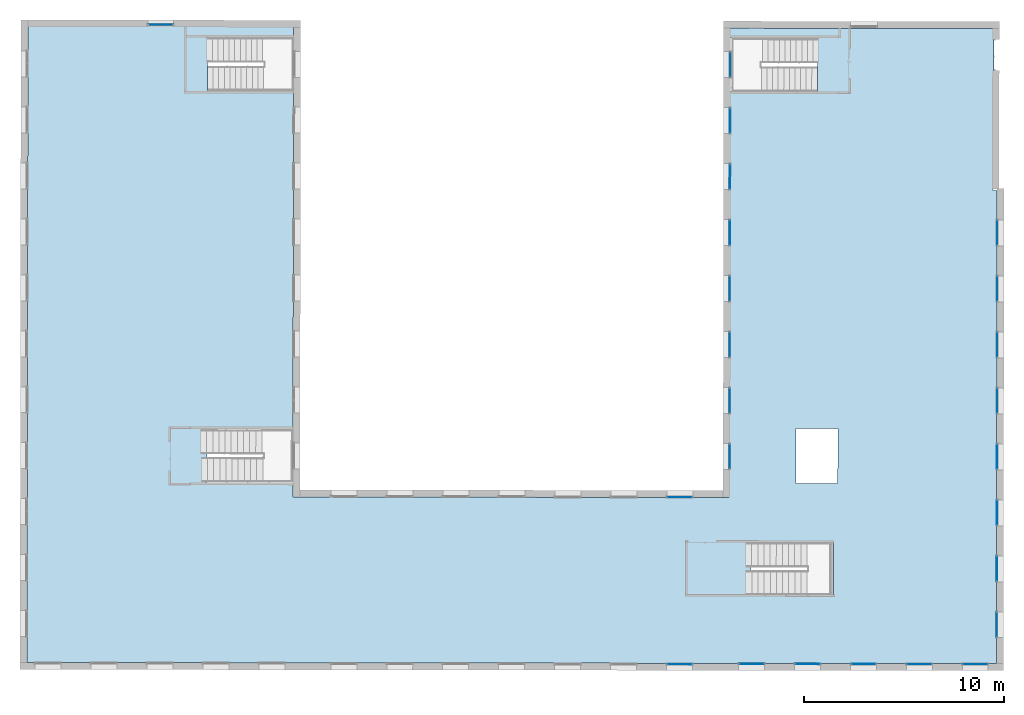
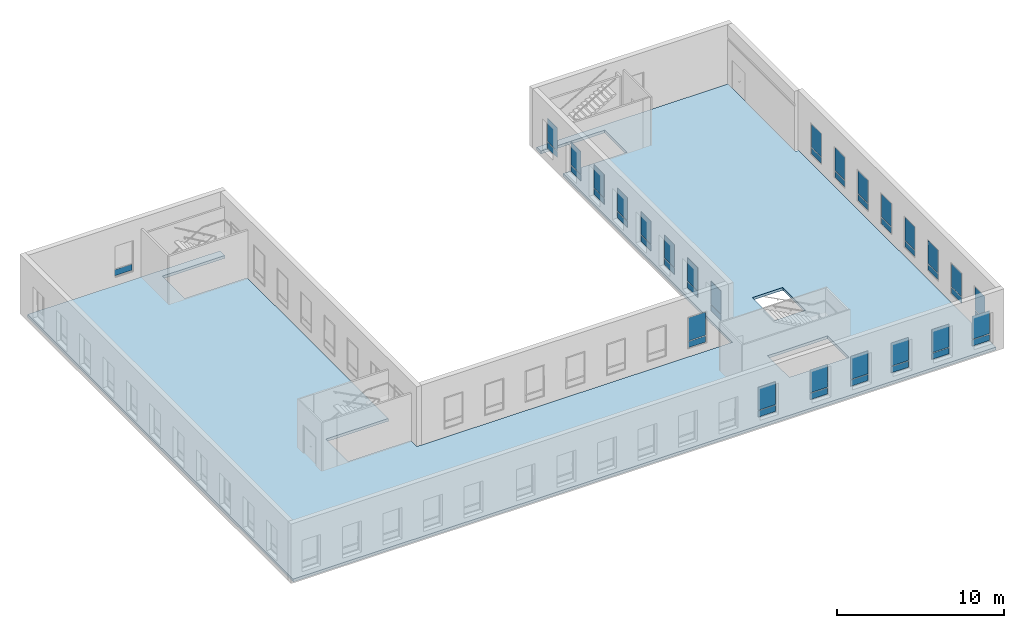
# One storey, part 28 of 35: 47 plates, 1 slab, 2 openings, 24 elements without a shape of their own.
"""IFC2X3 building model written with IfcOpenShell, lengths in metres."""

import ifcopenshell
import ifcopenshell.guid

model = None  # the IFC model being written
_history = None  # IfcOwnerHistory: only IFC2X3 demands one
_inside = {}  # id of a spatial element -> (the spatial element, [elements in it])
_under = {}  # id of a project, library or spatial element -> (it, [spatial elements below it])
_declared = {}  # id of a project -> (the project, [libraries it declares])
_typed = {}  # id of a type object -> (the type object, [elements of that type])
_made_of = {}  # id of a material, layer set ... -> (it, [elements and type objects made of it])


def new_model(schema):
    """Start an empty IFC model of exactly this schema.

    Asked for "IFC4X3", IfcOpenShell would pick the latest addendum, in which some entities
    have other attributes; the version numbers below select the first issue.
    IFC2X3 requires an IfcOwnerHistory on every rooted entity: one is made here for all.
    """
    global model, _history
    if schema == "IFC4X3":
        model = ifcopenshell.file(schema_version=(4, 3, 0, 0))
    else:
        model = ifcopenshell.file(schema=schema)
    _inside.clear()
    _under.clear()
    _declared.clear()
    _typed.clear()
    _made_of.clear()
    _history = None
    if model.schema == "IFC2X3":
        org = make("IfcOrganization", Name="unknown")
        user = make(
            "IfcPersonAndOrganization",
            ThePerson=make("IfcPerson", FamilyName="unknown"),
            TheOrganization=org,
        )
        app = make(
            "IfcApplication",
            ApplicationDeveloper=org,
            Version="unknown",
            ApplicationFullName="unknown",
            ApplicationIdentifier="unknown",
        )
        _history = make(
            "IfcOwnerHistory",
            OwningUser=user,
            OwningApplication=app,
            ChangeAction="ADDED",
            CreationDate=0,
        )
    return model


def make(cls, **values):
    """One entity of the class cls with the attributes given. An attribute that is None is left unset."""
    return model.create_entity(
        cls, **{name: value for name, value in values.items() if value is not None}
    )


def entity(cls, *values):
    """Any entity or typed value of the class cls, its attributes in the order of the schema. None: left unset."""
    e = model.create_entity(cls)
    for i, value in enumerate(values):
        if value is not None:
            e[i] = value
    return e


def rooted(cls, **values):
    """An entity with a GlobalId (a new one), such as an element, a storey or a relation."""
    return make(cls, GlobalId=ifcopenshell.guid.new(), OwnerHistory=_history, **values)


def si_unit(unit_type, name, prefix=None):
    """IfcSIUnit, for example si_unit("LENGTHUNIT", "METRE", prefix="MILLI")."""
    return make("IfcSIUnit", UnitType=unit_type, Prefix=prefix, Name=name)


def converted_unit(unit_type, name, factor, base, dimensions=None, offset=None):
    """IfcConversionBasedUnit, such as the inch: factor (a typed value) times the base unit."""
    return make(
        "IfcConversionBasedUnit"
        if offset is None
        else "IfcConversionBasedUnitWithOffset",
        ConversionOffset=offset,
        Dimensions=None
        if dimensions is None
        else entity("IfcDimensionalExponents", *dimensions),
        UnitType=unit_type,
        Name=name,
        ConversionFactor=make(
            "IfcMeasureWithUnit", ValueComponent=factor, UnitComponent=base
        ),
    )


def derived_unit(unit_type, elements):
    """IfcDerivedUnit: a product of units, each with its exponent."""
    return make(
        "IfcDerivedUnit",
        Elements=[
            make("IfcDerivedUnitElement", Unit=unit, Exponent=power)
            for unit, power in elements
        ],
        UnitType=unit_type,
    )


def assignment(units):
    """IfcUnitAssignment: the units of a project."""
    return None if units is None else make("IfcUnitAssignment", Units=units)


def point(xyz):
    """IfcCartesianPoint."""
    return None if xyz is None else make("IfcCartesianPoint", Coordinates=xyz)


def direction(xyz):
    """IfcDirection."""
    return None if xyz is None else make("IfcDirection", DirectionRatios=xyz)


def frame(location, z_axis=None, x_axis=None):
    """IfcAxis2Placement3D, a coordinate frame: its origin and axes. An axis left out is left unset."""
    return make(
        "IfcAxis2Placement3D",
        Location=point(location),
        Axis=direction(z_axis),
        RefDirection=direction(x_axis),
    )


def frame_2d(location, x_axis=None):
    """IfcAxis2Placement2D, a coordinate frame in the plane: its origin and x axis."""
    return make(
        "IfcAxis2Placement2D", Location=point(location), RefDirection=direction(x_axis)
    )


def origin():
    """The frame at (0, 0, 0) with its axes left unset."""
    return frame((0.0, 0.0, 0.0))


def place(relative_to, where):
    """IfcLocalPlacement: puts the frame where relative to a parent placement (None: the world)."""
    return make(
        "IfcLocalPlacement", PlacementRelTo=relative_to, RelativePlacement=where
    )


def context(
    kind, dimensions, precision=None, world=None, true_north=None, identifier=None
):
    """IfcGeometricRepresentationContext, for example the 3D "Model" context."""
    return make(
        "IfcGeometricRepresentationContext",
        ContextIdentifier=identifier,
        ContextType=kind,
        CoordinateSpaceDimension=dimensions,
        Precision=precision,
        WorldCoordinateSystem=world,
        TrueNorth=true_north,
    )


def subcontext(parent, identifier, kind, view, scale=None):
    """IfcGeometricRepresentationSubContext, for example "Body" below "Model"."""
    return make(
        "IfcGeometricRepresentationSubContext",
        ContextIdentifier=identifier,
        ContextType=kind,
        ParentContext=parent,
        TargetScale=scale,
        TargetView=view,
    )


def project(units=None, contexts=None):
    """IfcProject with its units and contexts."""
    return rooted(
        "IfcProject",
        Name="project",
        RepresentationContexts=contexts,
        UnitsInContext=assignment(units),
    )


def spatial(cls, under=None, at=None, **own):
    """A site, building, storey or space (cls), placed at a placement, below another one or the project."""
    s = rooted(cls, ObjectPlacement=at, **own)
    if under is not None:
        _under.setdefault(under.id(), (under, []))[1].append(s)
    return s


def polyline(points):
    """IfcPolyline through the points."""
    return make("IfcPolyline", Points=[point(p) for p in points])


def profile(cls, at=None, kind="AREA", **sizes):
    """A parametric profile (cls). Its sizes go by their IFC names, for example OverallWidth=200.0."""
    return make(cls, ProfileType=kind, Position=at, **sizes)


def rectangle(**sizes):
    """IfcRectangleProfileDef."""
    return profile("IfcRectangleProfileDef", **sizes)


def outline(outer, holes=None, kind="AREA"):
    """IfcArbitraryClosedProfileDef: a profile drawn as a closed curve; with holes, ...WithVoids."""
    if holes is None:
        return make("IfcArbitraryClosedProfileDef", ProfileType=kind, OuterCurve=outer)
    return make(
        "IfcArbitraryProfileDefWithVoids",
        ProfileType=kind,
        OuterCurve=outer,
        InnerCurves=holes,
    )


def extrude(swept, where, along, depth):
    """IfcExtrudedAreaSolid: the profile swept, set in the frame where, extruded along a direction by depth."""
    return make(
        "IfcExtrudedAreaSolid",
        SweptArea=swept,
        Position=where,
        ExtrudedDirection=direction(along),
        Depth=depth,
    )


def boolean(op, a, b):
    """IfcBooleanResult of two solids."""
    return make("IfcBooleanResult", Operator=op, FirstOperand=a, SecondOperand=b)


def shape(context_of_items, identifier, shape_type, items):
    """IfcShapeRepresentation: the items that make up one representation, for example the "Body"."""
    return make(
        "IfcShapeRepresentation",
        ContextOfItems=context_of_items,
        RepresentationIdentifier=identifier,
        RepresentationType=shape_type,
        Items=items,
    )


def source(mapping_origin, context_of_items, identifier, shape_type, items):
    """IfcRepresentationMap: a shape defined once, which mapped items show again and again."""
    return make(
        "IfcRepresentationMap",
        MappingOrigin=mapping_origin,
        MappedRepresentation=shape(context_of_items, identifier, shape_type, items),
    )


def transform(
    local_origin,
    x_axis=None,
    y_axis=None,
    z_axis=None,
    scale=None,
    scale2=None,
    scale3=None,
    uniform=True,
):
    """IfcCartesianTransformationOperator3D, or its non-uniform kind. x_axis, y_axis, z_axis: its Axis1, 2, 3."""
    if uniform:
        return make(
            "IfcCartesianTransformationOperator3D",
            Axis1=direction(x_axis),
            Axis2=direction(y_axis),
            LocalOrigin=point(local_origin),
            Scale=scale,
            Axis3=direction(z_axis),
        )
    return make(
        "IfcCartesianTransformationOperator3DnonUniform",
        Axis1=direction(x_axis),
        Axis2=direction(y_axis),
        LocalOrigin=point(local_origin),
        Scale=scale,
        Axis3=direction(z_axis),
        Scale2=scale2,
        Scale3=scale3,
    )


def mapped(mapping_source, mapping_target):
    """IfcMappedItem: shows the shape of a source again, moved by a transform."""
    return make(
        "IfcMappedItem", MappingSource=mapping_source, MappingTarget=mapping_target
    )


def material(Name=None, Category=None):
    """IfcMaterial."""
    return make("IfcMaterial", Name=Name, Category=Category)


def layer(
    of_material, thickness, ventilated=None, Name=None, Category=None, Priority=None
):
    """IfcMaterialLayer: one layer of a wall or slab, of a material (None: an air gap)."""
    return make(
        "IfcMaterialLayer",
        Material=of_material,
        LayerThickness=thickness,
        IsVentilated=ventilated,
        Name=Name,
        Category=Category,
        Priority=Priority,
    )


def layer_set(layers, Name=None):
    """IfcMaterialLayerSet."""
    return make("IfcMaterialLayerSet", MaterialLayers=layers, LayerSetName=Name)


def layer_usage(for_layer_set, set_direction, sense, offset, extent=None):
    """IfcMaterialLayerSetUsage: how a layer set lies in its element."""
    return make(
        "IfcMaterialLayerSetUsage",
        ForLayerSet=for_layer_set,
        LayerSetDirection=set_direction,
        DirectionSense=sense,
        OffsetFromReferenceLine=offset,
        ReferenceExtent=extent,
    )


def made_of(thing, what):
    """Note that an element or type object is made of a material, layer set ...; save() writes the relation."""
    if what is not None:
        _made_of.setdefault(what.id(), (what, []))[1].append(thing)
    return thing


def type_object(cls, material=None, **own):
    """A type object (cls), such as IfcWallType, which elements share."""
    return made_of(rooted(cls, **own), material)


def type_shapes(of_type, sources):
    """Give a type object the sources (RepresentationMaps) that its elements show as mapped items."""
    of_type.RepresentationMaps = sources


def element(
    cls,
    number,
    at=None,
    inside=None,
    cuts=None,
    type_object=None,
    material=None,
    context=None,
    identifier="Body",
    shape_type=None,
    held_by="IfcProductDefinitionShape",
    body=None,
    shapes=None,
    **own,
):
    """One element of the class cls, such as IfcWall. Its Tag is "e" and its number.

    at: its placement. inside: the storey or other place that contains it. cuts: it is an
    opening in that element (IfcRelVoidsElement). A single representation is given by context,
    identifier, shape_type and body (its items); several are given by shapes. held_by: the class
    of the entity that holds the representations. save() writes the other relations.
    """
    e = rooted(cls, Tag="e%d" % number, ObjectPlacement=at, **own)
    if body is not None:
        shapes = [shape(context, identifier, shape_type, body)]
    if shapes is not None:
        e.Representation = make(held_by, Representations=shapes)
    if inside is not None:
        _inside.setdefault(inside.id(), (inside, []))[1].append(e)
    if cuts is not None:
        rooted(
            "IfcRelVoidsElement", RelatingBuildingElement=cuts, RelatedOpeningElement=e
        )
    if type_object is not None:
        _typed.setdefault(type_object.id(), (type_object, []))[1].append(e)
    return made_of(e, material)


def aggregate(whole, parts):
    """IfcRelAggregates: a whole, such as a stair, and the parts it consists of."""
    return rooted("IfcRelAggregates", RelatingObject=whole, RelatedObjects=parts)


def save(model, path):
    """Write the relations noted so far, then the file.

    IfcRelAggregates (storeys below a building ...), IfcRelContainedInSpatialStructure (elements
    in a storey), IfcRelDefinesByType, IfcRelAssociatesMaterial and IfcRelDeclares: one each for
    every whole, place, type object, material and project.
    """
    for whole, parts in _under.values():
        aggregate(whole, parts)
    for where, things in _inside.values():
        rooted(
            "IfcRelContainedInSpatialStructure",
            RelatedElements=things,
            RelatingStructure=where,
        )
    for kind, things in _typed.values():
        rooted("IfcRelDefinesByType", RelatedObjects=things, RelatingType=kind)
    for what, things in _made_of.values():
        rooted("IfcRelAssociatesMaterial", RelatedObjects=things, RelatingMaterial=what)
    for by, libraries in _declared.values():
        rooted("IfcRelDeclares", RelatingContext=by, RelatedDefinitions=libraries)
    model.write(path)


model = new_model("IFC2X3")

# Units and contexts
model_context = context("Model", 3, precision=1e-05, world=origin(), true_north=direction((6.123233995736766e-17, 1.0)))
body_context = subcontext(model_context, "Body", "Model", "MODEL_VIEW")
ifc_project = project(units=[si_unit("LENGTHUNIT", "METRE"), si_unit("AREAUNIT", "SQUARE_METRE"), converted_unit("PLANEANGLEUNIT", "DEGREE", entity("IfcPlaneAngleMeasure", 0.017453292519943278), si_unit("PLANEANGLEUNIT", "RADIAN"), dimensions=[0, 0, 0, 0, 0, 0, 0]), derived_unit("THERMALTRANSMITTANCEUNIT", [(si_unit("MASSUNIT", "GRAM", prefix="KILO"), 1), (si_unit("THERMODYNAMICTEMPERATUREUNIT", "KELVIN"), -1), (si_unit("TIMEUNIT", "SECOND"), -3)])], contexts=[model_context])

# Site, building, storey
site_placement = place(None, frame((1253.6752467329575, 2072.143113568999, 91.49999999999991), z_axis=(0.0, 0.0, 1.0), x_axis=(0.7237211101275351, 0.6900925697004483, 0.0)))
site = spatial("IfcSite", under=ifc_project, at=site_placement, Name="Surface", CompositionType="ELEMENT")
building_placement = place(site_placement, origin())
building = spatial("IfcBuilding", under=site, at=building_placement, CompositionType="ELEMENT")
storey_placement = place(building_placement, frame((0.0, 0.0, 3.549999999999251)))
storey = spatial("IfcBuildingStorey", under=building, at=storey_placement, Name="1-R+1", CompositionType="ELEMENT", Elevation=3.549999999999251)

# Slab, openings
ifc_material_1 = material(Name="OMD_Béton blanc")
ifc_layer_1 = layer(ifc_material_1, 0.2)
ifc_layer_set_1 = layer_set([ifc_layer_1], Name="Sol:Dalle 20")
ifc_layer_usage = layer_usage(ifc_layer_set_1, "AXIS3", "POSITIVE", 0.0)
slab_type = type_object("IfcSlabType", Name="Sol:Dalle 20", PredefinedType="FLOOR", material=ifc_layer_set_1)
slab_placement = place(storey_placement, origin())
slab = element("IfcSlab", 1, at=slab_placement, inside=storey, type_object=slab_type, material=ifc_layer_usage, Name="Sol:Dalle 20", ObjectType="Sol:Dalle 20", PredefinedType="FLOOR", context=body_context, shape_type="SweptSolid", body=[
    boolean("DIFFERENCE", boolean("DIFFERENCE", extrude(outline(polyline([(-10.390133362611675, 10.737065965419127), (-9.82299723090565, 10.737065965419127), (-9.822997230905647, 15.0383924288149), (-7.151993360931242, 15.03839242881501), (-7.151993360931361, 10.737065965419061), (9.778006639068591, 10.737065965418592), (9.778006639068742, 15.051534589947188), (12.448006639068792, 15.051534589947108), (12.448006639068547, 10.737065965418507), (13.163006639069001, 10.737065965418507), (13.1630066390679, -11.064464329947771), (-7.151993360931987, -11.064464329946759), (-7.151993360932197, -15.472934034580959), (-9.821993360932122, -15.4729340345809), (-9.821993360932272, -11.064432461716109), (-10.313592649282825, -11.064432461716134), (-10.313592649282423, -24.268225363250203), (-2.199323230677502, -24.26822536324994), (-2.1993232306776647, -24.462934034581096), (21.463006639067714, -24.46293403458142), (21.463006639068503, 24.035625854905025), (-10.39013336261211, 24.02810476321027), (-10.390133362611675, 10.737065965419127)])), frame((176.43856625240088, 3.1833848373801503, 0.0), z_axis=(0.0, 0.0, -1.0), x_axis=(-0.6909838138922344, -0.7228702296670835, 0.0)), (0.0, 0.0, 1.0), 0.2), extrude(rectangle(XDim=2.734999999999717, YDim=2.0999999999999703, at=frame_2d((4.551914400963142e-15, 4.440892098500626e-15), x_axis=(1.0, 0.0))), frame((179.9598101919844, -15.511020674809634, -0.2), z_axis=(0.0, 0.0, 1.0), x_axis=(0.6909838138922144, 0.7228702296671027, 0.0)), (0.0, 0.0, 1.0), 0.19999999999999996)), extrude(rectangle(XDim=2.5849999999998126, YDim=4.12999999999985, at=frame_2d((2.4202861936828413e-14, 2.3092638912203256e-14), x_axis=(1.0, 0.0))), frame((175.18437415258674, -18.748463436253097, -0.2), z_axis=(0.0, 0.0, 1.0), x_axis=(0.6909838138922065, 0.7228702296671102, 0.0)), (0.0, 0.0, 1.0), 0.19999999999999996)),
])
opening_1_placement = place(slab_placement, origin())
element("IfcOpeningElement", 2, at=opening_1_placement, cuts=slab, Name="Sol:Dalle 20", ObjectType="Opening", context=body_context, shape_type="SweptSolid", body=[
    extrude(rectangle(XDim=2.7349999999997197, YDim=2.0999999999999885, at=frame_2d((4.773959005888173e-15, -4.440892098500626e-15), x_axis=(1.0, 0.0))), frame((179.9598101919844, -15.511020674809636, 0.0), z_axis=(0.0, 0.0, -1.0), x_axis=(-0.6909838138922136, -0.7228702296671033, 0.0)), (0.0, 0.0, 1.0), 0.2),
])
opening_2_placement = place(slab_placement, origin())
element("IfcOpeningElement", 3, at=opening_2_placement, cuts=slab, Name="Sol:Dalle 20", ObjectType="Opening", context=body_context, shape_type="SweptSolid", body=[
    extrude(rectangle(XDim=2.5849999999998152, YDim=4.1299999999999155, at=frame_2d((3.6193270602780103e-14, -1.0658141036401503e-14), x_axis=(1.0, 0.0))), frame((175.18437415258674, -18.748463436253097, 0.0), z_axis=(0.0, 0.0, -1.0), x_axis=(-0.6909838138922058, -0.722870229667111, 0.0)), (0.0, 0.0, 1.0), 0.19999999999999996),
])

# Curtain wall, plate
curtain_wall_type = type_object("IfcCurtainWallType", Name="Mur-rideau:Menuiserie Ext 1F+1OB VERTIC", PredefinedType="NOTDEFINED")
curtain_wall_1_placement = place(storey_placement, frame((0.0, 0.0, -3.549999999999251)))
curtain_wall_1 = element("IfcCurtainWall", 4, at=curtain_wall_1_placement, inside=storey, type_object=curtain_wall_type, Name="Mur-rideau:Menuiserie Ext 1F+1OB VERTIC", ObjectType="Mur-rideau:Menuiserie Ext 1F+1OB VERTIC")
ifc_material_2 = material(Name="Verre")
ifc_layer_2 = layer(ifc_material_2, 0.01)
ifc_layer_set_2 = layer_set([ifc_layer_2], Name="Panneau système:Vitré")
plate_type_1 = type_object("IfcPlateType", Name="Panneau système:Vitré", PredefinedType="CURTAIN_PANEL", material=ifc_layer_set_2)
shared_shape_1 = source(origin(), body_context, "Body", "SweptSolid", [
    extrude(rectangle(XDim=0.01, YDim=1.199695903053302, at=frame_2d((0.0, -4.163336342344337e-15), x_axis=(1.0, 0.0))), frame((0.0, 0.0, 0.0), z_axis=(0.0, 0.0, 1.0), x_axis=(0.0, 1.0, 0.0)), (0.0, 0.0, 1.0), 0.44499999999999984),
])
type_shapes(plate_type_1, [shared_shape_1])
plate_1_placement = place(curtain_wall_1_placement, frame((190.32983121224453, 1.6453523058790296, 4.219999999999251), z_axis=(0.0, 0.0, 1.0), x_axis=(0.6909838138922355, 0.7228702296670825, 0.0)))
plate_1 = element("IfcPlate", 5, at=plate_1_placement, type_object=plate_type_1, material=ifc_material_2, Name="Panneau système:Vitré", ObjectType="Panneau système:Vitré", context=body_context, shape_type="MappedRepresentation", body=[
    mapped(shared_shape_1, transform((0.0, 0.0, 0.0), scale=1.0)),
])

curtain_wall_2_placement = place(storey_placement, frame((0.0, 0.0, -3.549999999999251)))
curtain_wall_2 = element("IfcCurtainWall", 6, at=curtain_wall_2_placement, inside=storey, type_object=curtain_wall_type, Name="Mur-rideau:Menuiserie Ext 1F+1OB VERTIC", ObjectType="Mur-rideau:Menuiserie Ext 1F+1OB VERTIC")
plate_2_placement = place(curtain_wall_2_placement, frame((188.39528665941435, -0.37846451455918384, 4.219999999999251), z_axis=(0.0, 0.0, 1.0), x_axis=(0.6909838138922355, 0.7228702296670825, 0.0)))
plate_2 = element("IfcPlate", 7, at=plate_2_placement, type_object=plate_type_1, material=ifc_material_2, Name="Panneau système:Vitré", ObjectType="Panneau système:Vitré", context=body_context, shape_type="MappedRepresentation", body=[
    mapped(shared_shape_1, transform((0.0, 0.0, 0.0), scale=1.0)),
])

curtain_wall_3_placement = place(storey_placement, frame((0.0, 0.0, -3.549999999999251)))
curtain_wall_3 = element("IfcCurtainWall", 8, at=curtain_wall_3_placement, inside=storey, type_object=curtain_wall_type, Name="Mur-rideau:Menuiserie Ext 1F+1OB VERTIC", ObjectType="Mur-rideau:Menuiserie Ext 1F+1OB VERTIC")
plate_3_placement = place(curtain_wall_3_placement, frame((186.46053198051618, -2.4025011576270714, 4.219999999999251), z_axis=(0.0, 0.0, 1.0), x_axis=(0.6909838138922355, 0.7228702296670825, 0.0)))
plate_3 = element("IfcPlate", 9, at=plate_3_placement, type_object=plate_type_1, material=ifc_material_2, Name="Panneau système:Vitré", ObjectType="Panneau système:Vitré", context=body_context, shape_type="MappedRepresentation", body=[
    mapped(shared_shape_1, transform((0.0, 0.0, 0.0), scale=1.0)),
])

curtain_wall_4_placement = place(storey_placement, frame((0.0, 0.0, -3.549999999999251)))
curtain_wall_4 = element("IfcCurtainWall", 10, at=curtain_wall_4_placement, inside=storey, type_object=curtain_wall_type, Name="Mur-rideau:Menuiserie Ext 1F+1OB VERTIC", ObjectType="Mur-rideau:Menuiserie Ext 1F+1OB VERTIC")
plate_4_placement = place(curtain_wall_4_placement, frame((184.52577730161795, -4.426537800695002, 4.219999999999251), z_axis=(0.0, 0.0, 1.0), x_axis=(0.6909838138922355, 0.7228702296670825, 0.0)))
plate_4 = element("IfcPlate", 11, at=plate_4_placement, type_object=plate_type_1, material=ifc_material_2, Name="Panneau système:Vitré", ObjectType="Panneau système:Vitré", context=body_context, shape_type="MappedRepresentation", body=[
    mapped(shared_shape_1, transform((0.0, 0.0, 0.0), scale=1.0)),
])

curtain_wall_5_placement = place(storey_placement, frame((0.0, 0.0, -3.549999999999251)))
curtain_wall_5 = element("IfcCurtainWall", 12, at=curtain_wall_5_placement, inside=storey, type_object=curtain_wall_type, Name="Mur-rideau:Menuiserie Ext 1F+1OB VERTIC", ObjectType="Mur-rideau:Menuiserie Ext 1F+1OB VERTIC")
plate_5_placement = place(curtain_wall_5_placement, frame((182.59102262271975, -6.450574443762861, 4.219999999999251), z_axis=(0.0, 0.0, 1.0), x_axis=(0.6909838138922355, 0.7228702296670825, 0.0)))
plate_5 = element("IfcPlate", 13, at=plate_5_placement, type_object=plate_type_1, material=ifc_material_2, Name="Panneau système:Vitré", ObjectType="Panneau système:Vitré", context=body_context, shape_type="MappedRepresentation", body=[
    mapped(shared_shape_1, transform((0.0, 0.0, 0.0), scale=1.0)),
])

curtain_wall_6_placement = place(storey_placement, frame((0.0, 0.0, -3.549999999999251)))
curtain_wall_6 = element("IfcCurtainWall", 14, at=curtain_wall_6_placement, inside=storey, type_object=curtain_wall_type, Name="Mur-rideau:Menuiserie Ext 1F+1OB VERTIC", ObjectType="Mur-rideau:Menuiserie Ext 1F+1OB VERTIC")
plate_6_placement = place(curtain_wall_6_placement, frame((180.6562679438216, -8.474611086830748, 4.219999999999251), z_axis=(0.0, 0.0, 1.0), x_axis=(0.6909838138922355, 0.7228702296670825, 0.0)))
plate_6 = element("IfcPlate", 15, at=plate_6_placement, type_object=plate_type_1, material=ifc_material_2, Name="Panneau système:Vitré", ObjectType="Panneau système:Vitré", context=body_context, shape_type="MappedRepresentation", body=[
    mapped(shared_shape_1, transform((0.0, 0.0, 0.0), scale=1.0)),
])

curtain_wall_7_placement = place(storey_placement, frame((0.0, 0.0, -3.549999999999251)))
curtain_wall_7 = element("IfcCurtainWall", 16, at=curtain_wall_7_placement, inside=storey, type_object=curtain_wall_type, Name="Mur-rideau:Menuiserie Ext 1F+1OB VERTIC", ObjectType="Mur-rideau:Menuiserie Ext 1F+1OB VERTIC")
plate_7_placement = place(curtain_wall_7_placement, frame((178.72151326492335, -10.49864772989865, 4.219999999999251), z_axis=(0.0, 0.0, 1.0), x_axis=(0.6909838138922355, 0.7228702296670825, 0.0)))
plate_7 = element("IfcPlate", 17, at=plate_7_placement, type_object=plate_type_1, material=ifc_material_2, Name="Panneau système:Vitré", ObjectType="Panneau système:Vitré", context=body_context, shape_type="MappedRepresentation", body=[
    mapped(shared_shape_1, transform((0.0, 0.0, 0.0), scale=1.0)),
])

curtain_wall_8_placement = place(storey_placement, frame((0.0, 0.0, -3.549999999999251)))
curtain_wall_8 = element("IfcCurtainWall", 18, at=curtain_wall_8_placement, inside=storey, type_object=curtain_wall_type, Name="Mur-rideau:Menuiserie Ext 1F+1OB VERTIC", ObjectType="Mur-rideau:Menuiserie Ext 1F+1OB VERTIC")
plate_8_placement = place(curtain_wall_8_placement, frame((176.78675858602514, -12.52268437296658, 4.219999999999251), z_axis=(0.0, 0.0, 1.0), x_axis=(0.6909838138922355, 0.7228702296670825, 0.0)))
plate_8 = element("IfcPlate", 19, at=plate_8_placement, type_object=plate_type_1, material=ifc_material_2, Name="Panneau système:Vitré", ObjectType="Panneau système:Vitré", context=body_context, shape_type="MappedRepresentation", body=[
    mapped(shared_shape_1, transform((0.0, 0.0, 0.0), scale=1.0)),
])

curtain_wall_9_placement = place(storey_placement, frame((0.0, 0.0, -3.549999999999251)))
curtain_wall_9 = element("IfcCurtainWall", 20, at=curtain_wall_9_placement, inside=storey, type_object=curtain_wall_type, Name="Mur-rideau:Menuiserie Ext 1F+1OB VERTIC", ObjectType="Mur-rideau:Menuiserie Ext 1F+1OB VERTIC")
plate_9_placement = place(curtain_wall_9_placement, frame((194.19721053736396, -13.671355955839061, 4.219999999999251), z_axis=(0.0, 0.0, 1.0), x_axis=(0.6909838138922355, 0.7228702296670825, 0.0)))
plate_9 = element("IfcPlate", 21, at=plate_9_placement, type_object=plate_type_1, material=ifc_material_2, Name="Panneau système:Vitré", ObjectType="Panneau système:Vitré", context=body_context, shape_type="MappedRepresentation", body=[
    mapped(shared_shape_1, transform((0.0, 0.0, 0.0), scale=1.0)),
])

curtain_wall_10_placement = place(storey_placement, frame((0.0, 0.0, -3.549999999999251)))
curtain_wall_10 = element("IfcCurtainWall", 22, at=curtain_wall_10_placement, inside=storey, type_object=curtain_wall_type, Name="Mur-rideau:Menuiserie Ext 1F+1OB VERTIC", ObjectType="Mur-rideau:Menuiserie Ext 1F+1OB VERTIC")
plate_10_placement = place(curtain_wall_10_placement, frame((192.26245585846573, -15.695392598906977, 4.219999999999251), z_axis=(0.0, 0.0, 1.0), x_axis=(0.6909838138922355, 0.7228702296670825, 0.0)))
plate_10 = element("IfcPlate", 23, at=plate_10_placement, type_object=plate_type_1, material=ifc_material_2, Name="Panneau système:Vitré", ObjectType="Panneau système:Vitré", context=body_context, shape_type="MappedRepresentation", body=[
    mapped(shared_shape_1, transform((0.0, 0.0, 0.0), scale=1.0)),
])

curtain_wall_11_placement = place(storey_placement, frame((0.0, 0.0, -3.549999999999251)))
curtain_wall_11 = element("IfcCurtainWall", 24, at=curtain_wall_11_placement, inside=storey, type_object=curtain_wall_type, Name="Mur-rideau:Menuiserie Ext 1F+1OB VERTIC", ObjectType="Mur-rideau:Menuiserie Ext 1F+1OB VERTIC")
plate_11_placement = place(curtain_wall_11_placement, frame((190.32770117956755, -17.719429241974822, 4.219999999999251), z_axis=(0.0, 0.0, 1.0), x_axis=(0.6909838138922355, 0.7228702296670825, 0.0)))
plate_11 = element("IfcPlate", 25, at=plate_11_placement, type_object=plate_type_1, material=ifc_material_2, Name="Panneau système:Vitré", ObjectType="Panneau système:Vitré", context=body_context, shape_type="MappedRepresentation", body=[
    mapped(shared_shape_1, transform((0.0, 0.0, 0.0), scale=1.0)),
])

curtain_wall_12_placement = place(storey_placement, frame((0.0, 0.0, -3.549999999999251)))
curtain_wall_12 = element("IfcCurtainWall", 26, at=curtain_wall_12_placement, inside=storey, type_object=curtain_wall_type, Name="Mur-rideau:Menuiserie Ext 1F+1OB VERTIC", ObjectType="Mur-rideau:Menuiserie Ext 1F+1OB VERTIC")
plate_12_placement = place(curtain_wall_12_placement, frame((188.39294650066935, -19.74346588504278, 4.219999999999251), z_axis=(0.0, 0.0, 1.0), x_axis=(0.6909838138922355, 0.7228702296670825, 0.0)))
plate_12 = element("IfcPlate", 27, at=plate_12_placement, type_object=plate_type_1, material=ifc_material_2, Name="Panneau système:Vitré", ObjectType="Panneau système:Vitré", context=body_context, shape_type="MappedRepresentation", body=[
    mapped(shared_shape_1, transform((0.0, 0.0, 0.0), scale=1.0)),
])

curtain_wall_13_placement = place(storey_placement, frame((0.0, 0.0, -3.549999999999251)))
curtain_wall_13 = element("IfcCurtainWall", 28, at=curtain_wall_13_placement, inside=storey, type_object=curtain_wall_type, Name="Mur-rideau:Menuiserie Ext 1F+1OB VERTIC", ObjectType="Mur-rideau:Menuiserie Ext 1F+1OB VERTIC")
plate_13_placement = place(curtain_wall_13_placement, frame((186.45819182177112, -21.767502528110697, 4.219999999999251), z_axis=(0.0, 0.0, 1.0), x_axis=(0.6909838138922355, 0.7228702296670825, 0.0)))
plate_13 = element("IfcPlate", 29, at=plate_13_placement, type_object=plate_type_1, material=ifc_material_2, Name="Panneau système:Vitré", ObjectType="Panneau système:Vitré", context=body_context, shape_type="MappedRepresentation", body=[
    mapped(shared_shape_1, transform((0.0, 0.0, 0.0), scale=1.0)),
])

curtain_wall_14_placement = place(storey_placement, frame((0.0, 0.0, -3.549999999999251)))
curtain_wall_14 = element("IfcCurtainWall", 30, at=curtain_wall_14_placement, inside=storey, type_object=curtain_wall_type, Name="Mur-rideau:Menuiserie Ext 1F+1OB VERTIC", ObjectType="Mur-rideau:Menuiserie Ext 1F+1OB VERTIC")
plate_14_placement = place(curtain_wall_14_placement, frame((184.52343714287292, -23.79153917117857, 4.219999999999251), z_axis=(0.0, 0.0, 1.0), x_axis=(0.6909838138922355, 0.7228702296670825, 0.0)))
plate_14 = element("IfcPlate", 31, at=plate_14_placement, type_object=plate_type_1, material=ifc_material_2, Name="Panneau système:Vitré", ObjectType="Panneau système:Vitré", context=body_context, shape_type="MappedRepresentation", body=[
    mapped(shared_shape_1, transform((0.0, 0.0, 0.0), scale=1.0)),
])

curtain_wall_15_placement = place(storey_placement, frame((0.0, 0.0, -3.549999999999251)))
curtain_wall_15 = element("IfcCurtainWall", 32, at=curtain_wall_15_placement, inside=storey, type_object=curtain_wall_type, Name="Mur-rideau:Menuiserie Ext 1F+1OB VERTIC", ObjectType="Mur-rideau:Menuiserie Ext 1F+1OB VERTIC")
plate_15_placement = place(curtain_wall_15_placement, frame((182.5886824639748, -25.815575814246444, 4.219999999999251), z_axis=(0.0, 0.0, 1.0), x_axis=(0.6909838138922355, 0.7228702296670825, 0.0)))
plate_15 = element("IfcPlate", 33, at=plate_15_placement, type_object=plate_type_1, material=ifc_material_2, Name="Panneau système:Vitré", ObjectType="Panneau système:Vitré", context=body_context, shape_type="MappedRepresentation", body=[
    mapped(shared_shape_1, transform((0.0, 0.0, 0.0), scale=1.0)),
])

curtain_wall_16_placement = place(storey_placement, frame((0.0, 0.0, -3.549999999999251)))
curtain_wall_16 = element("IfcCurtainWall", 34, at=curtain_wall_16_placement, inside=storey, type_object=curtain_wall_type, Name="Mur-rideau:Menuiserie Ext 1F+1OB VERTIC", ObjectType="Mur-rideau:Menuiserie Ext 1F+1OB VERTIC")
plate_16_placement = place(curtain_wall_16_placement, frame((180.6539277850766, -27.839612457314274, 4.219999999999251), z_axis=(0.0, 0.0, 1.0), x_axis=(0.6909838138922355, 0.7228702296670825, 0.0)))
plate_16 = element("IfcPlate", 35, at=plate_16_placement, type_object=plate_type_1, material=ifc_material_2, Name="Panneau système:Vitré", ObjectType="Panneau système:Vitré", context=body_context, shape_type="MappedRepresentation", body=[
    mapped(shared_shape_1, transform((0.0, 0.0, 0.0), scale=1.0)),
])

curtain_wall_17_placement = place(storey_placement, frame((0.0, 0.0, -3.549999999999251)))
curtain_wall_17 = element("IfcCurtainWall", 36, at=curtain_wall_17_placement, inside=storey, type_object=curtain_wall_type, Name="Mur-rideau:Menuiserie Ext 1F+1OB VERTIC", ObjectType="Mur-rideau:Menuiserie Ext 1F+1OB VERTIC")
plate_17_placement = place(curtain_wall_17_placement, frame((178.50916414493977, -28.521830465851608, 4.219999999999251), z_axis=(0.0, 0.0, 1.0), x_axis=(-0.7228702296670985, 0.6909838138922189, 0.0)))
plate_17 = element("IfcPlate", 37, at=plate_17_placement, type_object=plate_type_1, material=ifc_material_2, Name="Panneau système:Vitré", ObjectType="Panneau système:Vitré", context=body_context, shape_type="MappedRepresentation", body=[
    mapped(shared_shape_1, transform((0.0, 0.0, 0.0), scale=1.0)),
])

curtain_wall_18_placement = place(storey_placement, frame((0.0, 0.0, -3.549999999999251)))
curtain_wall_18 = element("IfcCurtainWall", 38, at=curtain_wall_18_placement, inside=storey, type_object=curtain_wall_type, Name="Mur-rideau:Menuiserie Ext 1F+1OB VERTIC", ObjectType="Mur-rideau:Menuiserie Ext 1F+1OB VERTIC")
plate_18_placement = place(curtain_wall_18_placement, frame((176.49128774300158, -26.592964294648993, 4.219999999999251), z_axis=(0.0, 0.0, 1.0), x_axis=(-0.7228702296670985, 0.6909838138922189, 0.0)))
plate_18 = element("IfcPlate", 39, at=plate_18_placement, type_object=plate_type_1, material=ifc_material_2, Name="Panneau système:Vitré", ObjectType="Panneau système:Vitré", context=body_context, shape_type="MappedRepresentation", body=[
    mapped(shared_shape_1, transform((0.0, 0.0, 0.0), scale=1.0)),
])

curtain_wall_19_placement = place(storey_placement, frame((0.0, 0.0, -3.549999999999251)))
curtain_wall_19 = element("IfcCurtainWall", 40, at=curtain_wall_19_placement, inside=storey, type_object=curtain_wall_type, Name="Mur-rideau:Menuiserie Ext 1F+1OB VERTIC", ObjectType="Mur-rideau:Menuiserie Ext 1F+1OB VERTIC")
plate_19_placement = place(curtain_wall_19_placement, frame((174.46725109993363, -24.65820961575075, 4.219999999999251), z_axis=(0.0, 0.0, 1.0), x_axis=(-0.7228702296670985, 0.6909838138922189, 0.0)))
plate_19 = element("IfcPlate", 41, at=plate_19_placement, type_object=plate_type_1, material=ifc_material_2, Name="Panneau système:Vitré", ObjectType="Panneau système:Vitré", context=body_context, shape_type="MappedRepresentation", body=[
    mapped(shared_shape_1, transform((0.0, 0.0, 0.0), scale=1.0)),
])

curtain_wall_20_placement = place(storey_placement, frame((0.0, 0.0, -3.549999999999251)))
curtain_wall_20 = element("IfcCurtainWall", 42, at=curtain_wall_20_placement, inside=storey, type_object=curtain_wall_type, Name="Mur-rideau:Menuiserie Ext 1F+1OB VERTIC", ObjectType="Mur-rideau:Menuiserie Ext 1F+1OB VERTIC")
plate_20_placement = place(curtain_wall_20_placement, frame((172.4432144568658, -22.72345493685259, 4.219999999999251), z_axis=(0.0, 0.0, 1.0), x_axis=(-0.7228702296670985, 0.6909838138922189, 0.0)))
plate_20 = element("IfcPlate", 43, at=plate_20_placement, type_object=plate_type_1, material=ifc_material_2, Name="Panneau système:Vitré", ObjectType="Panneau système:Vitré", context=body_context, shape_type="MappedRepresentation", body=[
    mapped(shared_shape_1, transform((0.0, 0.0, 0.0), scale=1.0)),
])

curtain_wall_21_placement = place(storey_placement, frame((0.0, 0.0, -3.549999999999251)))
curtain_wall_21 = element("IfcCurtainWall", 44, at=curtain_wall_21_placement, inside=storey, type_object=curtain_wall_type, Name="Mur-rideau:Menuiserie Ext 1F+1OB VERTIC", ObjectType="Mur-rideau:Menuiserie Ext 1F+1OB VERTIC")
plate_21_placement = place(curtain_wall_21_placement, frame((170.4191778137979, -20.788700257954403, 4.219999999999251), z_axis=(0.0, 0.0, 1.0), x_axis=(-0.7228702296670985, 0.6909838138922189, 0.0)))
plate_21 = element("IfcPlate", 45, at=plate_21_placement, type_object=plate_type_1, material=ifc_material_2, Name="Panneau système:Vitré", ObjectType="Panneau système:Vitré", context=body_context, shape_type="MappedRepresentation", body=[
    mapped(shared_shape_1, transform((0.0, 0.0, 0.0), scale=1.0)),
])

curtain_wall_22_placement = place(storey_placement, frame((0.0, 0.0, -3.549999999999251)))
curtain_wall_22 = element("IfcCurtainWall", 46, at=curtain_wall_22_placement, inside=storey, type_object=curtain_wall_type, Name="Mur-rideau:Menuiserie Ext 1F+1OB VERTIC", ObjectType="Mur-rideau:Menuiserie Ext 1F+1OB VERTIC")
plate_22_placement = place(curtain_wall_22_placement, frame((167.79748336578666, -18.32138580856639, 4.219999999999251), z_axis=(0.0, 0.0, 1.0), x_axis=(-0.7228702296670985, 0.6909838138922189, 0.0)))
plate_22 = element("IfcPlate", 47, at=plate_22_placement, type_object=plate_type_1, material=ifc_material_2, Name="Panneau système:Vitré", ObjectType="Panneau système:Vitré", context=body_context, shape_type="MappedRepresentation", body=[
    mapped(shared_shape_1, transform((0.0, 0.0, 0.0), scale=1.0)),
])

curtain_wall_23_placement = place(storey_placement, frame((0.0, 0.0, -3.549999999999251)))
curtain_wall_23 = element("IfcCurtainWall", 48, at=curtain_wall_23_placement, inside=storey, type_object=curtain_wall_type, Name="Mur-rideau:Menuiserie Ext 1F+1OB VERTIC", ObjectType="Mur-rideau:Menuiserie Ext 1F+1OB VERTIC")
plate_23_placement = place(curtain_wall_23_placement, frame((173.57342086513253, -12.279215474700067, 4.219999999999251), z_axis=(0.0, 0.0, 1.0), x_axis=(-0.7228702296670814, 0.6909838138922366, 0.0)))
plate_23 = element("IfcPlate", 49, at=plate_23_placement, type_object=plate_type_1, material=ifc_material_2, Name="Panneau système:Vitré", ObjectType="Panneau système:Vitré", context=body_context, shape_type="MappedRepresentation", body=[
    mapped(shared_shape_1, transform((0.0, 0.0, 0.0), scale=1.0)),
])

# Plate
plate_type_2 = type_object("IfcPlateType", Name="Panneau système:Vitré", PredefinedType="CURTAIN_PANEL", material=ifc_layer_set_2)
shared_shape_2 = source(origin(), body_context, "Body", "SweptSolid", [
    extrude(rectangle(XDim=0.01, YDim=1.199695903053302, at=frame_2d((0.0, -4.163336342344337e-15), x_axis=(1.0, 0.0))), frame((0.0, 0.0, 0.0), z_axis=(0.0, 0.0, 1.0), x_axis=(0.0, 1.0, 0.0)), (0.0, 0.0, 1.0), 1.6849999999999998),
])
type_shapes(plate_type_2, [shared_shape_2])
plate_24_placement = place(curtain_wall_1_placement, frame((190.32983121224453, 1.6453523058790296, 4.714999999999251), z_axis=(0.0, 0.0, 1.0), x_axis=(0.6909838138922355, 0.7228702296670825, 0.0)))
plate_24 = element("IfcPlate", 50, at=plate_24_placement, type_object=plate_type_2, material=ifc_material_2, Name="Panneau système:Vitré", ObjectType="Panneau système:Vitré", context=body_context, shape_type="MappedRepresentation", body=[
    mapped(shared_shape_2, transform((0.0, 0.0, 0.0), scale=1.0)),
])

aggregate(curtain_wall_1, [plate_1, plate_24])

plate_25_placement = place(curtain_wall_2_placement, frame((188.39528665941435, -0.37846451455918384, 4.714999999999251), z_axis=(0.0, 0.0, 1.0), x_axis=(0.6909838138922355, 0.7228702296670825, 0.0)))
plate_25 = element("IfcPlate", 51, at=plate_25_placement, type_object=plate_type_2, material=ifc_material_2, Name="Panneau système:Vitré", ObjectType="Panneau système:Vitré", context=body_context, shape_type="MappedRepresentation", body=[
    mapped(shared_shape_2, transform((0.0, 0.0, 0.0), scale=1.0)),
])

aggregate(curtain_wall_2, [plate_2, plate_25])

plate_26_placement = place(curtain_wall_3_placement, frame((186.46053198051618, -2.4025011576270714, 4.714999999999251), z_axis=(0.0, 0.0, 1.0), x_axis=(0.6909838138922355, 0.7228702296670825, 0.0)))
plate_26 = element("IfcPlate", 52, at=plate_26_placement, type_object=plate_type_2, material=ifc_material_2, Name="Panneau système:Vitré", ObjectType="Panneau système:Vitré", context=body_context, shape_type="MappedRepresentation", body=[
    mapped(shared_shape_2, transform((0.0, 0.0, 0.0), scale=1.0)),
])

aggregate(curtain_wall_3, [plate_3, plate_26])

plate_27_placement = place(curtain_wall_4_placement, frame((184.52577730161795, -4.426537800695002, 4.714999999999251), z_axis=(0.0, 0.0, 1.0), x_axis=(0.6909838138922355, 0.7228702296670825, 0.0)))
plate_27 = element("IfcPlate", 53, at=plate_27_placement, type_object=plate_type_2, material=ifc_material_2, Name="Panneau système:Vitré", ObjectType="Panneau système:Vitré", context=body_context, shape_type="MappedRepresentation", body=[
    mapped(shared_shape_2, transform((0.0, 0.0, 0.0), scale=1.0)),
])

aggregate(curtain_wall_4, [plate_4, plate_27])

plate_28_placement = place(curtain_wall_5_placement, frame((182.59102262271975, -6.450574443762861, 4.714999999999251), z_axis=(0.0, 0.0, 1.0), x_axis=(0.6909838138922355, 0.7228702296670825, 0.0)))
plate_28 = element("IfcPlate", 54, at=plate_28_placement, type_object=plate_type_2, material=ifc_material_2, Name="Panneau système:Vitré", ObjectType="Panneau système:Vitré", context=body_context, shape_type="MappedRepresentation", body=[
    mapped(shared_shape_2, transform((0.0, 0.0, 0.0), scale=1.0)),
])

aggregate(curtain_wall_5, [plate_5, plate_28])

plate_29_placement = place(curtain_wall_6_placement, frame((180.6562679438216, -8.474611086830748, 4.714999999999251), z_axis=(0.0, 0.0, 1.0), x_axis=(0.6909838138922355, 0.7228702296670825, 0.0)))
plate_29 = element("IfcPlate", 55, at=plate_29_placement, type_object=plate_type_2, material=ifc_material_2, Name="Panneau système:Vitré", ObjectType="Panneau système:Vitré", context=body_context, shape_type="MappedRepresentation", body=[
    mapped(shared_shape_2, transform((0.0, 0.0, 0.0), scale=1.0)),
])

aggregate(curtain_wall_6, [plate_6, plate_29])

plate_30_placement = place(curtain_wall_7_placement, frame((178.72151326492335, -10.49864772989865, 4.714999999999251), z_axis=(0.0, 0.0, 1.0), x_axis=(0.6909838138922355, 0.7228702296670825, 0.0)))
plate_30 = element("IfcPlate", 56, at=plate_30_placement, type_object=plate_type_2, material=ifc_material_2, Name="Panneau système:Vitré", ObjectType="Panneau système:Vitré", context=body_context, shape_type="MappedRepresentation", body=[
    mapped(shared_shape_2, transform((0.0, 0.0, 0.0), scale=1.0)),
])

aggregate(curtain_wall_7, [plate_7, plate_30])

plate_31_placement = place(curtain_wall_8_placement, frame((176.78675858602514, -12.52268437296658, 4.714999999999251), z_axis=(0.0, 0.0, 1.0), x_axis=(0.6909838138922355, 0.7228702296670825, 0.0)))
plate_31 = element("IfcPlate", 57, at=plate_31_placement, type_object=plate_type_2, material=ifc_material_2, Name="Panneau système:Vitré", ObjectType="Panneau système:Vitré", context=body_context, shape_type="MappedRepresentation", body=[
    mapped(shared_shape_2, transform((0.0, 0.0, 0.0), scale=1.0)),
])

aggregate(curtain_wall_8, [plate_8, plate_31])

plate_32_placement = place(curtain_wall_9_placement, frame((194.19721053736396, -13.671355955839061, 4.714999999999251), z_axis=(0.0, 0.0, 1.0), x_axis=(0.6909838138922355, 0.7228702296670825, 0.0)))
plate_32 = element("IfcPlate", 58, at=plate_32_placement, type_object=plate_type_2, material=ifc_material_2, Name="Panneau système:Vitré", ObjectType="Panneau système:Vitré", context=body_context, shape_type="MappedRepresentation", body=[
    mapped(shared_shape_2, transform((0.0, 0.0, 0.0), scale=1.0)),
])

aggregate(curtain_wall_9, [plate_9, plate_32])

plate_33_placement = place(curtain_wall_10_placement, frame((192.26245585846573, -15.695392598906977, 4.714999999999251), z_axis=(0.0, 0.0, 1.0), x_axis=(0.6909838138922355, 0.7228702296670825, 0.0)))
plate_33 = element("IfcPlate", 59, at=plate_33_placement, type_object=plate_type_2, material=ifc_material_2, Name="Panneau système:Vitré", ObjectType="Panneau système:Vitré", context=body_context, shape_type="MappedRepresentation", body=[
    mapped(shared_shape_2, transform((0.0, 0.0, 0.0), scale=1.0)),
])

aggregate(curtain_wall_10, [plate_10, plate_33])

plate_34_placement = place(curtain_wall_11_placement, frame((190.32770117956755, -17.719429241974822, 4.714999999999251), z_axis=(0.0, 0.0, 1.0), x_axis=(0.6909838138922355, 0.7228702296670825, 0.0)))
plate_34 = element("IfcPlate", 60, at=plate_34_placement, type_object=plate_type_2, material=ifc_material_2, Name="Panneau système:Vitré", ObjectType="Panneau système:Vitré", context=body_context, shape_type="MappedRepresentation", body=[
    mapped(shared_shape_2, transform((0.0, 0.0, 0.0), scale=1.0)),
])

aggregate(curtain_wall_11, [plate_11, plate_34])

plate_35_placement = place(curtain_wall_12_placement, frame((188.39294650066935, -19.74346588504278, 4.714999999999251), z_axis=(0.0, 0.0, 1.0), x_axis=(0.6909838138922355, 0.7228702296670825, 0.0)))
plate_35 = element("IfcPlate", 61, at=plate_35_placement, type_object=plate_type_2, material=ifc_material_2, Name="Panneau système:Vitré", ObjectType="Panneau système:Vitré", context=body_context, shape_type="MappedRepresentation", body=[
    mapped(shared_shape_2, transform((0.0, 0.0, 0.0), scale=1.0)),
])

aggregate(curtain_wall_12, [plate_12, plate_35])

plate_36_placement = place(curtain_wall_13_placement, frame((186.45819182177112, -21.767502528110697, 4.714999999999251), z_axis=(0.0, 0.0, 1.0), x_axis=(0.6909838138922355, 0.7228702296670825, 0.0)))
plate_36 = element("IfcPlate", 62, at=plate_36_placement, type_object=plate_type_2, material=ifc_material_2, Name="Panneau système:Vitré", ObjectType="Panneau système:Vitré", context=body_context, shape_type="MappedRepresentation", body=[
    mapped(shared_shape_2, transform((0.0, 0.0, 0.0), scale=1.0)),
])

aggregate(curtain_wall_13, [plate_13, plate_36])

plate_37_placement = place(curtain_wall_14_placement, frame((184.52343714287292, -23.79153917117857, 4.714999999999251), z_axis=(0.0, 0.0, 1.0), x_axis=(0.6909838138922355, 0.7228702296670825, 0.0)))
plate_37 = element("IfcPlate", 63, at=plate_37_placement, type_object=plate_type_2, material=ifc_material_2, Name="Panneau système:Vitré", ObjectType="Panneau système:Vitré", context=body_context, shape_type="MappedRepresentation", body=[
    mapped(shared_shape_2, transform((0.0, 0.0, 0.0), scale=1.0)),
])

aggregate(curtain_wall_14, [plate_14, plate_37])

plate_38_placement = place(curtain_wall_15_placement, frame((182.5886824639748, -25.815575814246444, 4.714999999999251), z_axis=(0.0, 0.0, 1.0), x_axis=(0.6909838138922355, 0.7228702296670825, 0.0)))
plate_38 = element("IfcPlate", 64, at=plate_38_placement, type_object=plate_type_2, material=ifc_material_2, Name="Panneau système:Vitré", ObjectType="Panneau système:Vitré", context=body_context, shape_type="MappedRepresentation", body=[
    mapped(shared_shape_2, transform((0.0, 0.0, 0.0), scale=1.0)),
])

aggregate(curtain_wall_15, [plate_15, plate_38])

plate_39_placement = place(curtain_wall_16_placement, frame((180.6539277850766, -27.839612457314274, 4.714999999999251), z_axis=(0.0, 0.0, 1.0), x_axis=(0.6909838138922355, 0.7228702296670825, 0.0)))
plate_39 = element("IfcPlate", 65, at=plate_39_placement, type_object=plate_type_2, material=ifc_material_2, Name="Panneau système:Vitré", ObjectType="Panneau système:Vitré", context=body_context, shape_type="MappedRepresentation", body=[
    mapped(shared_shape_2, transform((0.0, 0.0, 0.0), scale=1.0)),
])

aggregate(curtain_wall_16, [plate_16, plate_39])

plate_40_placement = place(curtain_wall_17_placement, frame((178.50916414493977, -28.521830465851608, 4.714999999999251), z_axis=(0.0, 0.0, 1.0), x_axis=(-0.7228702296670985, 0.6909838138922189, 0.0)))
plate_40 = element("IfcPlate", 66, at=plate_40_placement, type_object=plate_type_2, material=ifc_material_2, Name="Panneau système:Vitré", ObjectType="Panneau système:Vitré", context=body_context, shape_type="MappedRepresentation", body=[
    mapped(shared_shape_2, transform((0.0, 0.0, 0.0), scale=1.0)),
])

aggregate(curtain_wall_17, [plate_17, plate_40])

plate_41_placement = place(curtain_wall_18_placement, frame((176.49128774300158, -26.592964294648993, 4.714999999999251), z_axis=(0.0, 0.0, 1.0), x_axis=(-0.7228702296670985, 0.6909838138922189, 0.0)))
plate_41 = element("IfcPlate", 67, at=plate_41_placement, type_object=plate_type_2, material=ifc_material_2, Name="Panneau système:Vitré", ObjectType="Panneau système:Vitré", context=body_context, shape_type="MappedRepresentation", body=[
    mapped(shared_shape_2, transform((0.0, 0.0, 0.0), scale=1.0)),
])

aggregate(curtain_wall_18, [plate_18, plate_41])

plate_42_placement = place(curtain_wall_19_placement, frame((174.46725109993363, -24.65820961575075, 4.714999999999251), z_axis=(0.0, 0.0, 1.0), x_axis=(-0.7228702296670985, 0.6909838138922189, 0.0)))
plate_42 = element("IfcPlate", 68, at=plate_42_placement, type_object=plate_type_2, material=ifc_material_2, Name="Panneau système:Vitré", ObjectType="Panneau système:Vitré", context=body_context, shape_type="MappedRepresentation", body=[
    mapped(shared_shape_2, transform((0.0, 0.0, 0.0), scale=1.0)),
])

aggregate(curtain_wall_19, [plate_19, plate_42])

plate_43_placement = place(curtain_wall_20_placement, frame((172.4432144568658, -22.72345493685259, 4.714999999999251), z_axis=(0.0, 0.0, 1.0), x_axis=(-0.7228702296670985, 0.6909838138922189, 0.0)))
plate_43 = element("IfcPlate", 69, at=plate_43_placement, type_object=plate_type_2, material=ifc_material_2, Name="Panneau système:Vitré", ObjectType="Panneau système:Vitré", context=body_context, shape_type="MappedRepresentation", body=[
    mapped(shared_shape_2, transform((0.0, 0.0, 0.0), scale=1.0)),
])

aggregate(curtain_wall_20, [plate_20, plate_43])

plate_44_placement = place(curtain_wall_21_placement, frame((170.4191778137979, -20.788700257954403, 4.714999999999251), z_axis=(0.0, 0.0, 1.0), x_axis=(-0.7228702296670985, 0.6909838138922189, 0.0)))
plate_44 = element("IfcPlate", 70, at=plate_44_placement, type_object=plate_type_2, material=ifc_material_2, Name="Panneau système:Vitré", ObjectType="Panneau système:Vitré", context=body_context, shape_type="MappedRepresentation", body=[
    mapped(shared_shape_2, transform((0.0, 0.0, 0.0), scale=1.0)),
])

aggregate(curtain_wall_21, [plate_21, plate_44])

plate_45_placement = place(curtain_wall_22_placement, frame((167.79748336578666, -18.32138580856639, 4.714999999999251), z_axis=(0.0, 0.0, 1.0), x_axis=(-0.7228702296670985, 0.6909838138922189, 0.0)))
plate_45 = element("IfcPlate", 71, at=plate_45_placement, type_object=plate_type_2, material=ifc_material_2, Name="Panneau système:Vitré", ObjectType="Panneau système:Vitré", context=body_context, shape_type="MappedRepresentation", body=[
    mapped(shared_shape_2, transform((0.0, 0.0, 0.0), scale=1.0)),
])

aggregate(curtain_wall_22, [plate_22, plate_45])

plate_46_placement = place(curtain_wall_23_placement, frame((173.57342086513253, -12.279215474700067, 4.714999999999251), z_axis=(0.0, 0.0, 1.0), x_axis=(-0.7228702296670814, 0.6909838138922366, 0.0)))
plate_46 = element("IfcPlate", 72, at=plate_46_placement, type_object=plate_type_2, material=ifc_material_2, Name="Panneau système:Vitré", ObjectType="Panneau système:Vitré", context=body_context, shape_type="MappedRepresentation", body=[
    mapped(shared_shape_2, transform((0.0, 0.0, 0.0), scale=1.0)),
])

aggregate(curtain_wall_23, [plate_23, plate_46])

# Curtain wall, plate
curtain_wall_24_placement = place(storey_placement, frame((0.0, 0.0, -3.549999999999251)))
curtain_wall_24 = element("IfcCurtainWall", 73, at=curtain_wall_24_placement, inside=storey, type_object=curtain_wall_type, Name="Mur-rideau:Menuiserie Ext 1F+1OB VERTIC", ObjectType="Mur-rideau:Menuiserie Ext 1F+1OB VERTIC")
plate_type_3 = type_object("IfcPlateType", Name="Panneau système:Vitré", PredefinedType="CURTAIN_PANEL", material=ifc_layer_set_2)
shared_shape_3 = source(origin(), body_context, "Body", "SweptSolid", [
    extrude(rectangle(XDim=0.01, YDim=1.199695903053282, at=frame_2d((0.0, 4.163336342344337e-15), x_axis=(1.0, 0.0))), frame((0.0, 0.0, 0.0), z_axis=(0.0, 0.0, 1.0), x_axis=(0.0, 1.0, 0.0)), (0.0, 0.0, 1.0), 0.44499999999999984),
])
type_shapes(plate_type_3, [shared_shape_3])
plate_47_placement = place(curtain_wall_24_placement, frame((171.09071187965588, 22.746701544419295, 4.219999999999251), z_axis=(0.0, 0.0, 1.0), x_axis=(-0.7228702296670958, 0.6909838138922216, 0.0)))
plate_47 = element("IfcPlate", 74, at=plate_47_placement, type_object=plate_type_3, material=ifc_material_2, Name="Panneau système:Vitré", ObjectType="Panneau système:Vitré", context=body_context, shape_type="MappedRepresentation", body=[
    mapped(shared_shape_3, transform((0.0, 0.0, 0.0), scale=1.0)),
])
aggregate(curtain_wall_24, [plate_47])

save(model, "model.ifc")
